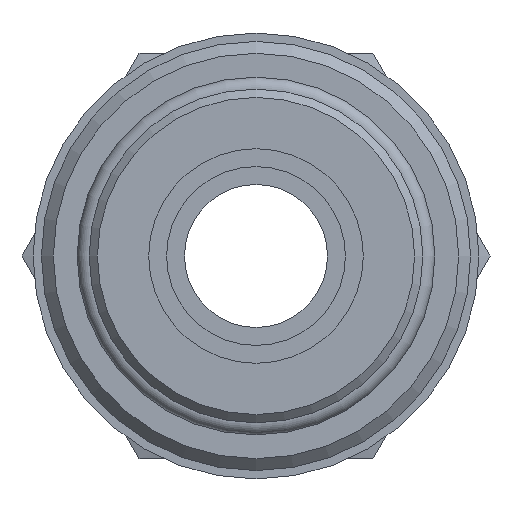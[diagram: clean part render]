
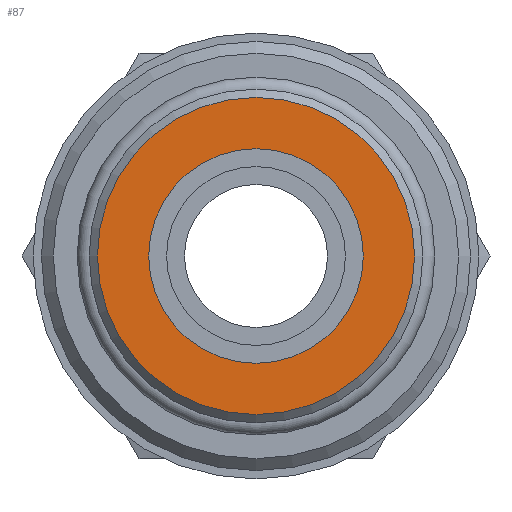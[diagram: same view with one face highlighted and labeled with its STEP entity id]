
A CAD part, left-side view. The second image highlights one B-rep face of the part: STEP entity #87.
In plain terms, the highlighted planar face has unit normal (-1, 0, 0).
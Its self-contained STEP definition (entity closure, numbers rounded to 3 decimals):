
#87 = ADVANCED_FACE( '', ( #150, #151 ), #152, .F. );
#150 = FACE_OUTER_BOUND( '', #280, .T. );
#151 = FACE_BOUND( '', #281, .T. );
#152 = PLANE( '', #282 );
#280 = EDGE_LOOP( '', ( #471 ) );
#281 = EDGE_LOOP( '', ( #472 ) );
#282 = AXIS2_PLACEMENT_3D( '', #473, #474, #475 );
#471 = ORIENTED_EDGE( '', *, *, #712, .F. );
#472 = ORIENTED_EDGE( '', *, *, #713, .T. );
#473 = CARTESIAN_POINT( '', ( -29., 0., 0. ) );
#474 = DIRECTION( '', ( 1., 0., 0. ) );
#475 = DIRECTION( '', ( 0., 0., -1. ) );
#712 = EDGE_CURVE( '', #810, #810, #811, .T. );
#713 = EDGE_CURVE( '', #812, #812, #813, .T. );
#810 = VERTEX_POINT( '', #1016 );
#811 = CIRCLE( '', #1017, 6.65 );
#812 = VERTEX_POINT( '', #1018 );
#813 = CIRCLE( '', #1019, 4.5 );
#1016 = CARTESIAN_POINT( '', ( -29., 0., -6.65 ) );
#1017 = AXIS2_PLACEMENT_3D( '', #1115, #1116, #1117 );
#1018 = CARTESIAN_POINT( '', ( -29., 0., -4.5 ) );
#1019 = AXIS2_PLACEMENT_3D( '', #1118, #1119, #1120 );
#1115 = CARTESIAN_POINT( '', ( -29., 0., 0. ) );
#1116 = DIRECTION( '', ( 1., 0., 0. ) );
#1117 = DIRECTION( '', ( 0., 0., -1. ) );
#1118 = CARTESIAN_POINT( '', ( -29., 0., 0. ) );
#1119 = DIRECTION( '', ( 1., 0., 0. ) );
#1120 = DIRECTION( '', ( 0., 0., -1. ) );
